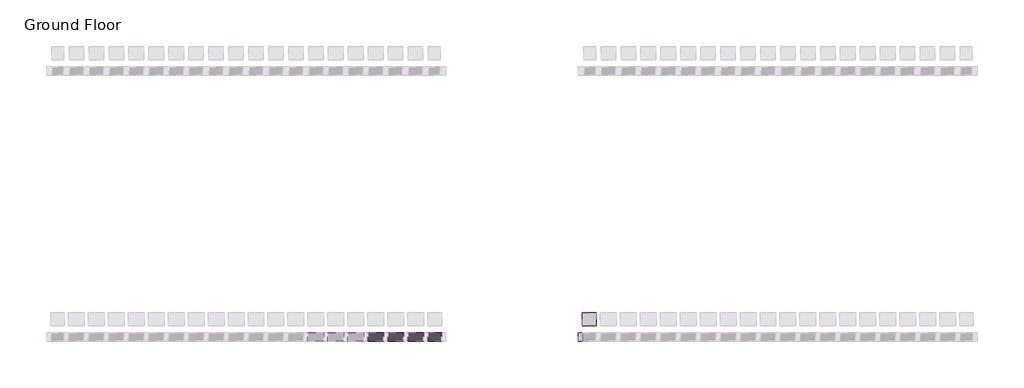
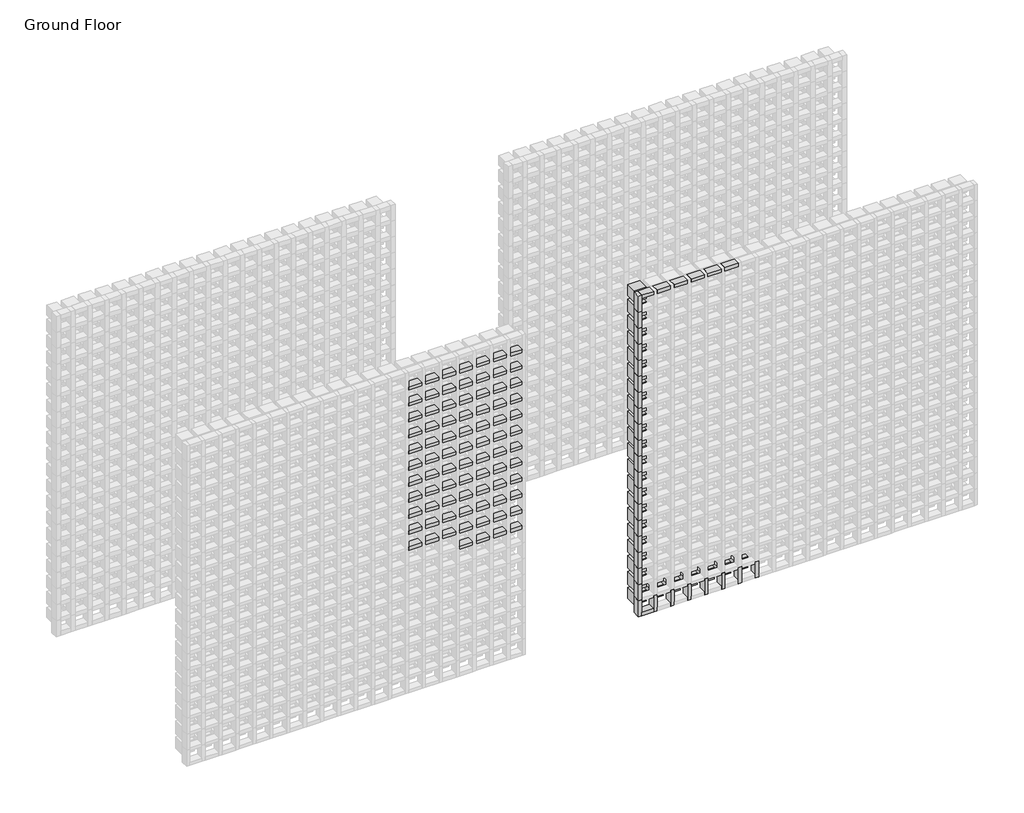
# One storey, part 73 of 350: 115 members, 26 plates.
"""IFC4 building model written with IfcOpenShell, lengths in millimetres."""

from ifc_helpers import new_model, si_unit, origin, place, context, project, spatial, transform, mapped, element, save
from components import rectangular_mullion_e9e2e2fa, rectangular_mullion_f28dea33, rectangular_mullion_5b501421, rectangular_mullion_f2fcf417, rectangular_mullion_51467dcc, rectangular_mullion_27b03f3e, rectangular_mullion_ed01f2b6, empty_system_panel_empty_2f71b3a5, empty_system_panel_empty_fe50b430, empty_system_panel_empty_7a4fbe29

model = new_model("IFC4")

# Units and contexts
model_context = context("Model", 3, world=origin())
ifc_project = project(units=[si_unit("LENGTHUNIT", "METRE", prefix="MILLI")], contexts=[model_context])

# Site, building, storey
site = spatial("IfcSite", under=ifc_project)
building = spatial("IfcBuilding", under=site)
storey = spatial("IfcBuildingStorey", under=building, Name="Ground Floor", Elevation=0.0)

# Members
placement = place(None, origin())
rectangular_mullion_shape = rectangular_mullion_e9e2e2fa(model_context)
element("IfcMember", 1, ObjectType="Rectangular Mullion : Batten_Timber_Modinex_Austratus_Grid_Fascia_30x65_Hemlock", at=placement, inside=storey, context=model_context, shape_type="MappedRepresentation", body=[
    mapped(rectangular_mullion_shape, transform((12886.4361639, 38968.2978302, 1200.0), x_axis=(0.0, 0.0, 1.0), y_axis=(0.0, -1.0, 0.0), z_axis=(1.0, 0.0, 0.0))),
])
element("IfcMember", 2, ObjectType="Rectangular Mullion : Batten_Timber_Modinex_Austratus_Grid_Fascia_30x65_Hemlock", at=placement, inside=storey, context=model_context, shape_type="MappedRepresentation", body=[
    mapped(rectangular_mullion_shape, transform((12886.4361639, 38968.2978302, 1350.0), x_axis=(0.0, 0.0, 1.0), y_axis=(0.0, -1.0, 0.0), z_axis=(1.0, 0.0, 0.0))),
])
element("IfcMember", 3, ObjectType="Rectangular Mullion : Batten_Timber_Modinex_Austratus_Grid_Fascia_30x65_Hemlock", at=placement, inside=storey, context=model_context, shape_type="MappedRepresentation", body=[
    mapped(rectangular_mullion_shape, transform((12886.4361639, 38968.2978302, 1500.0), x_axis=(0.0, 0.0, 1.0), y_axis=(0.0, -1.0, 0.0), z_axis=(1.0, 0.0, 0.0))),
])
element("IfcMember", 4, ObjectType="Rectangular Mullion : Batten_Timber_Modinex_Austratus_Grid_Fascia_30x65_Hemlock", at=placement, inside=storey, context=model_context, shape_type="MappedRepresentation", body=[
    mapped(rectangular_mullion_shape, transform((12886.4361639, 38968.2978302, 1650.0), x_axis=(0.0, 0.0, 1.0), y_axis=(0.0, -1.0, 0.0), z_axis=(1.0, 0.0, 0.0))),
])
element("IfcMember", 5, ObjectType="Rectangular Mullion : Batten_Timber_Modinex_Austratus_Grid_Fascia_30x65_Hemlock", at=placement, inside=storey, context=model_context, shape_type="MappedRepresentation", body=[
    mapped(rectangular_mullion_shape, transform((12886.4361639, 38968.2978302, 1800.0), x_axis=(0.0, 0.0, 1.0), y_axis=(0.0, -1.0, 0.0), z_axis=(1.0, 0.0, 0.0))),
])
element("IfcMember", 6, ObjectType="Rectangular Mullion : Batten_Timber_Modinex_Austratus_Grid_Fascia_30x65_Hemlock", at=placement, inside=storey, context=model_context, shape_type="MappedRepresentation", body=[
    mapped(rectangular_mullion_shape, transform((12886.4361639, 38968.2978302, 1950.0), x_axis=(0.0, 0.0, 1.0), y_axis=(0.0, -1.0, 0.0), z_axis=(1.0, 0.0, 0.0))),
])
element("IfcMember", 7, ObjectType="Rectangular Mullion : Batten_Timber_Modinex_Austratus_Grid_Fascia_30x65_Hemlock", at=placement, inside=storey, context=model_context, shape_type="MappedRepresentation", body=[
    mapped(rectangular_mullion_shape, transform((12886.4361639, 38968.2978302, 2100.0), x_axis=(0.0, 0.0, 1.0), y_axis=(0.0, -1.0, 0.0), z_axis=(1.0, 0.0, 0.0))),
])
element("IfcMember", 8, ObjectType="Rectangular Mullion : Batten_Timber_Modinex_Austratus_Grid_Fascia_30x65_Hemlock", at=placement, inside=storey, context=model_context, shape_type="MappedRepresentation", body=[
    mapped(rectangular_mullion_shape, transform((12886.4361639, 38968.2978302, 2250.0), x_axis=(0.0, 0.0, 1.0), y_axis=(0.0, -1.0, 0.0), z_axis=(1.0, 0.0, 0.0))),
])
element("IfcMember", 9, ObjectType="Rectangular Mullion : Batten_Timber_Modinex_Austratus_Grid_Fascia_30x65_Hemlock", at=placement, inside=storey, context=model_context, shape_type="MappedRepresentation", body=[
    mapped(rectangular_mullion_shape, transform((12886.4361639, 38968.2978302, 2400.0), x_axis=(0.0, 0.0, 1.0), y_axis=(0.0, -1.0, 0.0), z_axis=(1.0, 0.0, 0.0))),
])
element("IfcMember", 10, ObjectType="Rectangular Mullion : Batten_Timber_Modinex_Austratus_Grid_Fascia_30x65_Hemlock", at=placement, inside=storey, context=model_context, shape_type="MappedRepresentation", body=[
    mapped(rectangular_mullion_shape, transform((12886.4361639, 38968.2978302, 2550.0), x_axis=(0.0, 0.0, 1.0), y_axis=(0.0, -1.0, 0.0), z_axis=(1.0, 0.0, 0.0))),
])
element("IfcMember", 11, ObjectType="Rectangular Mullion : Batten_Timber_Modinex_Austratus_Grid_Fascia_30x65_Hemlock", at=placement, inside=storey, context=model_context, shape_type="MappedRepresentation", body=[
    mapped(rectangular_mullion_shape, transform((12886.4361639, 38968.2978302, 2700.0), x_axis=(0.0, 0.0, 1.0), y_axis=(0.0, -1.0, 0.0), z_axis=(1.0, 0.0, 0.0))),
])
element("IfcMember", 12, ObjectType="Rectangular Mullion : Batten_Timber_Modinex_Austratus_Grid_Fascia_30x65_Hemlock", at=placement, inside=storey, context=model_context, shape_type="MappedRepresentation", body=[
    mapped(rectangular_mullion_shape, transform((12886.4361639, 38968.2978302, 2850.0), x_axis=(0.0, 0.0, 1.0), y_axis=(0.0, -1.0, 0.0), z_axis=(1.0, 0.0, 0.0))),
])
rectangular_mullion_2_shape = rectangular_mullion_f28dea33(model_context)
element("IfcMember", 13, ObjectType="Rectangular Mullion : Batten_Timber_Modinex_Austratus_Grid_Fascia_30x65_Hemlock", at=placement, inside=storey, context=model_context, shape_type="MappedRepresentation", body=[
    mapped(rectangular_mullion_2_shape, transform((12451.4361642, 38968.2978302, 1200.0), x_axis=(0.0, 0.0, 1.0), y_axis=(0.0, -1.0, 0.0), z_axis=(1.0, 0.0, 0.0))),
])
element("IfcMember", 14, ObjectType="Rectangular Mullion : Batten_Timber_Modinex_Austratus_Grid_Fascia_30x65_Hemlock", at=placement, inside=storey, context=model_context, shape_type="MappedRepresentation", body=[
    mapped(rectangular_mullion_2_shape, transform((12601.4361642, 38968.2978302, 1200.0), x_axis=(0.0, 0.0, 1.0), y_axis=(0.0, -1.0, 0.0), z_axis=(1.0, 0.0, 0.0))),
])
element("IfcMember", 15, ObjectType="Rectangular Mullion : Batten_Timber_Modinex_Austratus_Grid_Fascia_30x65_Hemlock", at=placement, inside=storey, context=model_context, shape_type="MappedRepresentation", body=[
    mapped(rectangular_mullion_2_shape, transform((12751.4361642, 38968.2978302, 1200.0), x_axis=(0.0, 0.0, 1.0), y_axis=(0.0, -1.0, 0.0), z_axis=(1.0, 0.0, 0.0))),
])
element("IfcMember", 16, ObjectType="Rectangular Mullion : Batten_Timber_Modinex_Austratus_Grid_Fascia_30x65_Hemlock", at=placement, inside=storey, context=model_context, shape_type="MappedRepresentation", body=[
    mapped(rectangular_mullion_2_shape, transform((12001.4361642, 38968.2978302, 1350.0), x_axis=(0.0, 0.0, 1.0), y_axis=(0.0, -1.0, 0.0), z_axis=(1.0, 0.0, 0.0))),
])
element("IfcMember", 17, ObjectType="Rectangular Mullion : Batten_Timber_Modinex_Austratus_Grid_Fascia_30x65_Hemlock", at=placement, inside=storey, context=model_context, shape_type="MappedRepresentation", body=[
    mapped(rectangular_mullion_2_shape, transform((12151.4361642, 38968.2978302, 1350.0), x_axis=(0.0, 0.0, 1.0), y_axis=(0.0, -1.0, 0.0), z_axis=(1.0, 0.0, 0.0))),
])
element("IfcMember", 18, ObjectType="Rectangular Mullion : Batten_Timber_Modinex_Austratus_Grid_Fascia_30x65_Hemlock", at=placement, inside=storey, context=model_context, shape_type="MappedRepresentation", body=[
    mapped(rectangular_mullion_2_shape, transform((12301.4361642, 38968.2978302, 1350.0), x_axis=(0.0, 0.0, 1.0), y_axis=(0.0, -1.0, 0.0), z_axis=(1.0, 0.0, 0.0))),
])
element("IfcMember", 19, ObjectType="Rectangular Mullion : Batten_Timber_Modinex_Austratus_Grid_Fascia_30x65_Hemlock", at=placement, inside=storey, context=model_context, shape_type="MappedRepresentation", body=[
    mapped(rectangular_mullion_2_shape, transform((12451.4361642, 38968.2978302, 1350.0), x_axis=(0.0, 0.0, 1.0), y_axis=(0.0, -1.0, 0.0), z_axis=(1.0, 0.0, 0.0))),
])
element("IfcMember", 20, ObjectType="Rectangular Mullion : Batten_Timber_Modinex_Austratus_Grid_Fascia_30x65_Hemlock", at=placement, inside=storey, context=model_context, shape_type="MappedRepresentation", body=[
    mapped(rectangular_mullion_2_shape, transform((12601.4361642, 38968.2978302, 1350.0), x_axis=(0.0, 0.0, 1.0), y_axis=(0.0, -1.0, 0.0), z_axis=(1.0, 0.0, 0.0))),
])
element("IfcMember", 21, ObjectType="Rectangular Mullion : Batten_Timber_Modinex_Austratus_Grid_Fascia_30x65_Hemlock", at=placement, inside=storey, context=model_context, shape_type="MappedRepresentation", body=[
    mapped(rectangular_mullion_2_shape, transform((12751.4361642, 38968.2978302, 1350.0), x_axis=(0.0, 0.0, 1.0), y_axis=(0.0, -1.0, 0.0), z_axis=(1.0, 0.0, 0.0))),
])
element("IfcMember", 22, ObjectType="Rectangular Mullion : Batten_Timber_Modinex_Austratus_Grid_Fascia_30x65_Hemlock", at=placement, inside=storey, context=model_context, shape_type="MappedRepresentation", body=[
    mapped(rectangular_mullion_2_shape, transform((12001.4361642, 38968.2978302, 1500.0), x_axis=(0.0, 0.0, 1.0), y_axis=(0.0, -1.0, 0.0), z_axis=(1.0, 0.0, 0.0))),
])
element("IfcMember", 23, ObjectType="Rectangular Mullion : Batten_Timber_Modinex_Austratus_Grid_Fascia_30x65_Hemlock", at=placement, inside=storey, context=model_context, shape_type="MappedRepresentation", body=[
    mapped(rectangular_mullion_2_shape, transform((12151.4361642, 38968.2978302, 1500.0), x_axis=(0.0, 0.0, 1.0), y_axis=(0.0, -1.0, 0.0), z_axis=(1.0, 0.0, 0.0))),
])
element("IfcMember", 24, ObjectType="Rectangular Mullion : Batten_Timber_Modinex_Austratus_Grid_Fascia_30x65_Hemlock", at=placement, inside=storey, context=model_context, shape_type="MappedRepresentation", body=[
    mapped(rectangular_mullion_2_shape, transform((12301.4361642, 38968.2978302, 1500.0), x_axis=(0.0, 0.0, 1.0), y_axis=(0.0, -1.0, 0.0), z_axis=(1.0, 0.0, 0.0))),
])
element("IfcMember", 25, ObjectType="Rectangular Mullion : Batten_Timber_Modinex_Austratus_Grid_Fascia_30x65_Hemlock", at=placement, inside=storey, context=model_context, shape_type="MappedRepresentation", body=[
    mapped(rectangular_mullion_2_shape, transform((12451.4361642, 38968.2978302, 1500.0), x_axis=(0.0, 0.0, 1.0), y_axis=(0.0, -1.0, 0.0), z_axis=(1.0, 0.0, 0.0))),
])
element("IfcMember", 26, ObjectType="Rectangular Mullion : Batten_Timber_Modinex_Austratus_Grid_Fascia_30x65_Hemlock", at=placement, inside=storey, context=model_context, shape_type="MappedRepresentation", body=[
    mapped(rectangular_mullion_2_shape, transform((12601.4361642, 38968.2978302, 1500.0), x_axis=(0.0, 0.0, 1.0), y_axis=(0.0, -1.0, 0.0), z_axis=(1.0, 0.0, 0.0))),
])
element("IfcMember", 27, ObjectType="Rectangular Mullion : Batten_Timber_Modinex_Austratus_Grid_Fascia_30x65_Hemlock", at=placement, inside=storey, context=model_context, shape_type="MappedRepresentation", body=[
    mapped(rectangular_mullion_2_shape, transform((12751.4361642, 38968.2978302, 1500.0), x_axis=(0.0, 0.0, 1.0), y_axis=(0.0, -1.0, 0.0), z_axis=(1.0, 0.0, 0.0))),
])
element("IfcMember", 28, ObjectType="Rectangular Mullion : Batten_Timber_Modinex_Austratus_Grid_Fascia_30x65_Hemlock", at=placement, inside=storey, context=model_context, shape_type="MappedRepresentation", body=[
    mapped(rectangular_mullion_2_shape, transform((12001.4361642, 38968.2978302, 1650.0), x_axis=(0.0, 0.0, 1.0), y_axis=(0.0, -1.0, 0.0), z_axis=(1.0, 0.0, 0.0))),
])
element("IfcMember", 29, ObjectType="Rectangular Mullion : Batten_Timber_Modinex_Austratus_Grid_Fascia_30x65_Hemlock", at=placement, inside=storey, context=model_context, shape_type="MappedRepresentation", body=[
    mapped(rectangular_mullion_2_shape, transform((12151.4361642, 38968.2978302, 1650.0), x_axis=(0.0, 0.0, 1.0), y_axis=(0.0, -1.0, 0.0), z_axis=(1.0, 0.0, 0.0))),
])
element("IfcMember", 30, ObjectType="Rectangular Mullion : Batten_Timber_Modinex_Austratus_Grid_Fascia_30x65_Hemlock", at=placement, inside=storey, context=model_context, shape_type="MappedRepresentation", body=[
    mapped(rectangular_mullion_2_shape, transform((12301.4361642, 38968.2978302, 1650.0), x_axis=(0.0, 0.0, 1.0), y_axis=(0.0, -1.0, 0.0), z_axis=(1.0, 0.0, 0.0))),
])
element("IfcMember", 31, ObjectType="Rectangular Mullion : Batten_Timber_Modinex_Austratus_Grid_Fascia_30x65_Hemlock", at=placement, inside=storey, context=model_context, shape_type="MappedRepresentation", body=[
    mapped(rectangular_mullion_2_shape, transform((12451.4361642, 38968.2978302, 1650.0), x_axis=(0.0, 0.0, 1.0), y_axis=(0.0, -1.0, 0.0), z_axis=(1.0, 0.0, 0.0))),
])
element("IfcMember", 32, ObjectType="Rectangular Mullion : Batten_Timber_Modinex_Austratus_Grid_Fascia_30x65_Hemlock", at=placement, inside=storey, context=model_context, shape_type="MappedRepresentation", body=[
    mapped(rectangular_mullion_2_shape, transform((12601.4361642, 38968.2978302, 1650.0), x_axis=(0.0, 0.0, 1.0), y_axis=(0.0, -1.0, 0.0), z_axis=(1.0, 0.0, 0.0))),
])
element("IfcMember", 33, ObjectType="Rectangular Mullion : Batten_Timber_Modinex_Austratus_Grid_Fascia_30x65_Hemlock", at=placement, inside=storey, context=model_context, shape_type="MappedRepresentation", body=[
    mapped(rectangular_mullion_2_shape, transform((12751.4361642, 38968.2978302, 1650.0), x_axis=(0.0, 0.0, 1.0), y_axis=(0.0, -1.0, 0.0), z_axis=(1.0, 0.0, 0.0))),
])
element("IfcMember", 34, ObjectType="Rectangular Mullion : Batten_Timber_Modinex_Austratus_Grid_Fascia_30x65_Hemlock", at=placement, inside=storey, context=model_context, shape_type="MappedRepresentation", body=[
    mapped(rectangular_mullion_2_shape, transform((12001.4361642, 38968.2978302, 1800.0), x_axis=(0.0, 0.0, 1.0), y_axis=(0.0, -1.0, 0.0), z_axis=(1.0, 0.0, 0.0))),
])
element("IfcMember", 35, ObjectType="Rectangular Mullion : Batten_Timber_Modinex_Austratus_Grid_Fascia_30x65_Hemlock", at=placement, inside=storey, context=model_context, shape_type="MappedRepresentation", body=[
    mapped(rectangular_mullion_2_shape, transform((12151.4361642, 38968.2978302, 1800.0), x_axis=(0.0, 0.0, 1.0), y_axis=(0.0, -1.0, 0.0), z_axis=(1.0, 0.0, 0.0))),
])
element("IfcMember", 36, ObjectType="Rectangular Mullion : Batten_Timber_Modinex_Austratus_Grid_Fascia_30x65_Hemlock", at=placement, inside=storey, context=model_context, shape_type="MappedRepresentation", body=[
    mapped(rectangular_mullion_2_shape, transform((12301.4361642, 38968.2978302, 1800.0), x_axis=(0.0, 0.0, 1.0), y_axis=(0.0, -1.0, 0.0), z_axis=(1.0, 0.0, 0.0))),
])
element("IfcMember", 37, ObjectType="Rectangular Mullion : Batten_Timber_Modinex_Austratus_Grid_Fascia_30x65_Hemlock", at=placement, inside=storey, context=model_context, shape_type="MappedRepresentation", body=[
    mapped(rectangular_mullion_2_shape, transform((12451.4361642, 38968.2978302, 1800.0), x_axis=(0.0, 0.0, 1.0), y_axis=(0.0, -1.0, 0.0), z_axis=(1.0, 0.0, 0.0))),
])
element("IfcMember", 38, ObjectType="Rectangular Mullion : Batten_Timber_Modinex_Austratus_Grid_Fascia_30x65_Hemlock", at=placement, inside=storey, context=model_context, shape_type="MappedRepresentation", body=[
    mapped(rectangular_mullion_2_shape, transform((12601.4361642, 38968.2978302, 1800.0), x_axis=(0.0, 0.0, 1.0), y_axis=(0.0, -1.0, 0.0), z_axis=(1.0, 0.0, 0.0))),
])
element("IfcMember", 39, ObjectType="Rectangular Mullion : Batten_Timber_Modinex_Austratus_Grid_Fascia_30x65_Hemlock", at=placement, inside=storey, context=model_context, shape_type="MappedRepresentation", body=[
    mapped(rectangular_mullion_2_shape, transform((12751.4361642, 38968.2978302, 1800.0), x_axis=(0.0, 0.0, 1.0), y_axis=(0.0, -1.0, 0.0), z_axis=(1.0, 0.0, 0.0))),
])
element("IfcMember", 40, ObjectType="Rectangular Mullion : Batten_Timber_Modinex_Austratus_Grid_Fascia_30x65_Hemlock", at=placement, inside=storey, context=model_context, shape_type="MappedRepresentation", body=[
    mapped(rectangular_mullion_2_shape, transform((12001.4361642, 38968.2978302, 1950.0), x_axis=(0.0, 0.0, 1.0), y_axis=(0.0, -1.0, 0.0), z_axis=(1.0, 0.0, 0.0))),
])
element("IfcMember", 41, ObjectType="Rectangular Mullion : Batten_Timber_Modinex_Austratus_Grid_Fascia_30x65_Hemlock", at=placement, inside=storey, context=model_context, shape_type="MappedRepresentation", body=[
    mapped(rectangular_mullion_2_shape, transform((12151.4361642, 38968.2978302, 1950.0), x_axis=(0.0, 0.0, 1.0), y_axis=(0.0, -1.0, 0.0), z_axis=(1.0, 0.0, 0.0))),
])
element("IfcMember", 42, ObjectType="Rectangular Mullion : Batten_Timber_Modinex_Austratus_Grid_Fascia_30x65_Hemlock", at=placement, inside=storey, context=model_context, shape_type="MappedRepresentation", body=[
    mapped(rectangular_mullion_2_shape, transform((12301.4361642, 38968.2978302, 1950.0), x_axis=(0.0, 0.0, 1.0), y_axis=(0.0, -1.0, 0.0), z_axis=(1.0, 0.0, 0.0))),
])
element("IfcMember", 43, ObjectType="Rectangular Mullion : Batten_Timber_Modinex_Austratus_Grid_Fascia_30x65_Hemlock", at=placement, inside=storey, context=model_context, shape_type="MappedRepresentation", body=[
    mapped(rectangular_mullion_2_shape, transform((12451.4361642, 38968.2978302, 1950.0), x_axis=(0.0, 0.0, 1.0), y_axis=(0.0, -1.0, 0.0), z_axis=(1.0, 0.0, 0.0))),
])
element("IfcMember", 44, ObjectType="Rectangular Mullion : Batten_Timber_Modinex_Austratus_Grid_Fascia_30x65_Hemlock", at=placement, inside=storey, context=model_context, shape_type="MappedRepresentation", body=[
    mapped(rectangular_mullion_2_shape, transform((12601.4361642, 38968.2978302, 1950.0), x_axis=(0.0, 0.0, 1.0), y_axis=(0.0, -1.0, 0.0), z_axis=(1.0, 0.0, 0.0))),
])
element("IfcMember", 45, ObjectType="Rectangular Mullion : Batten_Timber_Modinex_Austratus_Grid_Fascia_30x65_Hemlock", at=placement, inside=storey, context=model_context, shape_type="MappedRepresentation", body=[
    mapped(rectangular_mullion_2_shape, transform((12751.4361642, 38968.2978302, 1950.0), x_axis=(0.0, 0.0, 1.0), y_axis=(0.0, -1.0, 0.0), z_axis=(1.0, 0.0, 0.0))),
])
element("IfcMember", 46, ObjectType="Rectangular Mullion : Batten_Timber_Modinex_Austratus_Grid_Fascia_30x65_Hemlock", at=placement, inside=storey, context=model_context, shape_type="MappedRepresentation", body=[
    mapped(rectangular_mullion_2_shape, transform((12001.4361642, 38968.2978302, 2100.0), x_axis=(0.0, 0.0, 1.0), y_axis=(0.0, -1.0, 0.0), z_axis=(1.0, 0.0, 0.0))),
])
element("IfcMember", 47, ObjectType="Rectangular Mullion : Batten_Timber_Modinex_Austratus_Grid_Fascia_30x65_Hemlock", at=placement, inside=storey, context=model_context, shape_type="MappedRepresentation", body=[
    mapped(rectangular_mullion_2_shape, transform((12151.4361642, 38968.2978302, 2100.0), x_axis=(0.0, 0.0, 1.0), y_axis=(0.0, -1.0, 0.0), z_axis=(1.0, 0.0, 0.0))),
])
element("IfcMember", 48, ObjectType="Rectangular Mullion : Batten_Timber_Modinex_Austratus_Grid_Fascia_30x65_Hemlock", at=placement, inside=storey, context=model_context, shape_type="MappedRepresentation", body=[
    mapped(rectangular_mullion_2_shape, transform((12301.4361642, 38968.2978302, 2100.0), x_axis=(0.0, 0.0, 1.0), y_axis=(0.0, -1.0, 0.0), z_axis=(1.0, 0.0, 0.0))),
])
element("IfcMember", 49, ObjectType="Rectangular Mullion : Batten_Timber_Modinex_Austratus_Grid_Fascia_30x65_Hemlock", at=placement, inside=storey, context=model_context, shape_type="MappedRepresentation", body=[
    mapped(rectangular_mullion_2_shape, transform((12451.4361642, 38968.2978302, 2100.0), x_axis=(0.0, 0.0, 1.0), y_axis=(0.0, -1.0, 0.0), z_axis=(1.0, 0.0, 0.0))),
])
element("IfcMember", 50, ObjectType="Rectangular Mullion : Batten_Timber_Modinex_Austratus_Grid_Fascia_30x65_Hemlock", at=placement, inside=storey, context=model_context, shape_type="MappedRepresentation", body=[
    mapped(rectangular_mullion_2_shape, transform((12601.4361642, 38968.2978302, 2100.0), x_axis=(0.0, 0.0, 1.0), y_axis=(0.0, -1.0, 0.0), z_axis=(1.0, 0.0, 0.0))),
])
element("IfcMember", 51, ObjectType="Rectangular Mullion : Batten_Timber_Modinex_Austratus_Grid_Fascia_30x65_Hemlock", at=placement, inside=storey, context=model_context, shape_type="MappedRepresentation", body=[
    mapped(rectangular_mullion_2_shape, transform((12751.4361642, 38968.2978302, 2100.0), x_axis=(0.0, 0.0, 1.0), y_axis=(0.0, -1.0, 0.0), z_axis=(1.0, 0.0, 0.0))),
])
element("IfcMember", 52, ObjectType="Rectangular Mullion : Batten_Timber_Modinex_Austratus_Grid_Fascia_30x65_Hemlock", at=placement, inside=storey, context=model_context, shape_type="MappedRepresentation", body=[
    mapped(rectangular_mullion_2_shape, transform((12001.4361642, 38968.2978302, 2250.0), x_axis=(0.0, 0.0, 1.0), y_axis=(0.0, -1.0, 0.0), z_axis=(1.0, 0.0, 0.0))),
])
element("IfcMember", 53, ObjectType="Rectangular Mullion : Batten_Timber_Modinex_Austratus_Grid_Fascia_30x65_Hemlock", at=placement, inside=storey, context=model_context, shape_type="MappedRepresentation", body=[
    mapped(rectangular_mullion_2_shape, transform((12151.4361642, 38968.2978302, 2250.0), x_axis=(0.0, 0.0, 1.0), y_axis=(0.0, -1.0, 0.0), z_axis=(1.0, 0.0, 0.0))),
])
element("IfcMember", 54, ObjectType="Rectangular Mullion : Batten_Timber_Modinex_Austratus_Grid_Fascia_30x65_Hemlock", at=placement, inside=storey, context=model_context, shape_type="MappedRepresentation", body=[
    mapped(rectangular_mullion_2_shape, transform((12301.4361642, 38968.2978302, 2250.0), x_axis=(0.0, 0.0, 1.0), y_axis=(0.0, -1.0, 0.0), z_axis=(1.0, 0.0, 0.0))),
])
element("IfcMember", 55, ObjectType="Rectangular Mullion : Batten_Timber_Modinex_Austratus_Grid_Fascia_30x65_Hemlock", at=placement, inside=storey, context=model_context, shape_type="MappedRepresentation", body=[
    mapped(rectangular_mullion_2_shape, transform((12451.4361642, 38968.2978302, 2250.0), x_axis=(0.0, 0.0, 1.0), y_axis=(0.0, -1.0, 0.0), z_axis=(1.0, 0.0, 0.0))),
])
element("IfcMember", 56, ObjectType="Rectangular Mullion : Batten_Timber_Modinex_Austratus_Grid_Fascia_30x65_Hemlock", at=placement, inside=storey, context=model_context, shape_type="MappedRepresentation", body=[
    mapped(rectangular_mullion_2_shape, transform((12601.4361642, 38968.2978302, 2250.0), x_axis=(0.0, 0.0, 1.0), y_axis=(0.0, -1.0, 0.0), z_axis=(1.0, 0.0, 0.0))),
])
element("IfcMember", 57, ObjectType="Rectangular Mullion : Batten_Timber_Modinex_Austratus_Grid_Fascia_30x65_Hemlock", at=placement, inside=storey, context=model_context, shape_type="MappedRepresentation", body=[
    mapped(rectangular_mullion_2_shape, transform((12751.4361642, 38968.2978302, 2250.0), x_axis=(0.0, 0.0, 1.0), y_axis=(0.0, -1.0, 0.0), z_axis=(1.0, 0.0, 0.0))),
])
element("IfcMember", 58, ObjectType="Rectangular Mullion : Batten_Timber_Modinex_Austratus_Grid_Fascia_30x65_Hemlock", at=placement, inside=storey, context=model_context, shape_type="MappedRepresentation", body=[
    mapped(rectangular_mullion_2_shape, transform((12001.4361642, 38968.2978302, 2400.0), x_axis=(0.0, 0.0, 1.0), y_axis=(0.0, -1.0, 0.0), z_axis=(1.0, 0.0, 0.0))),
])
element("IfcMember", 59, ObjectType="Rectangular Mullion : Batten_Timber_Modinex_Austratus_Grid_Fascia_30x65_Hemlock", at=placement, inside=storey, context=model_context, shape_type="MappedRepresentation", body=[
    mapped(rectangular_mullion_2_shape, transform((12151.4361642, 38968.2978302, 2400.0), x_axis=(0.0, 0.0, 1.0), y_axis=(0.0, -1.0, 0.0), z_axis=(1.0, 0.0, 0.0))),
])
element("IfcMember", 60, ObjectType="Rectangular Mullion : Batten_Timber_Modinex_Austratus_Grid_Fascia_30x65_Hemlock", at=placement, inside=storey, context=model_context, shape_type="MappedRepresentation", body=[
    mapped(rectangular_mullion_2_shape, transform((12301.4361642, 38968.2978302, 2400.0), x_axis=(0.0, 0.0, 1.0), y_axis=(0.0, -1.0, 0.0), z_axis=(1.0, 0.0, 0.0))),
])
element("IfcMember", 61, ObjectType="Rectangular Mullion : Batten_Timber_Modinex_Austratus_Grid_Fascia_30x65_Hemlock", at=placement, inside=storey, context=model_context, shape_type="MappedRepresentation", body=[
    mapped(rectangular_mullion_2_shape, transform((12451.4361642, 38968.2978302, 2400.0), x_axis=(0.0, 0.0, 1.0), y_axis=(0.0, -1.0, 0.0), z_axis=(1.0, 0.0, 0.0))),
])
element("IfcMember", 62, ObjectType="Rectangular Mullion : Batten_Timber_Modinex_Austratus_Grid_Fascia_30x65_Hemlock", at=placement, inside=storey, context=model_context, shape_type="MappedRepresentation", body=[
    mapped(rectangular_mullion_2_shape, transform((12601.4361642, 38968.2978302, 2400.0), x_axis=(0.0, 0.0, 1.0), y_axis=(0.0, -1.0, 0.0), z_axis=(1.0, 0.0, 0.0))),
])
element("IfcMember", 63, ObjectType="Rectangular Mullion : Batten_Timber_Modinex_Austratus_Grid_Fascia_30x65_Hemlock", at=placement, inside=storey, context=model_context, shape_type="MappedRepresentation", body=[
    mapped(rectangular_mullion_2_shape, transform((12751.4361642, 38968.2978302, 2400.0), x_axis=(0.0, 0.0, 1.0), y_axis=(0.0, -1.0, 0.0), z_axis=(1.0, 0.0, 0.0))),
])
element("IfcMember", 64, ObjectType="Rectangular Mullion : Batten_Timber_Modinex_Austratus_Grid_Fascia_30x65_Hemlock", at=placement, inside=storey, context=model_context, shape_type="MappedRepresentation", body=[
    mapped(rectangular_mullion_2_shape, transform((12001.4361642, 38968.2978302, 2550.0), x_axis=(0.0, 0.0, 1.0), y_axis=(0.0, -1.0, 0.0), z_axis=(1.0, 0.0, 0.0))),
])
element("IfcMember", 65, ObjectType="Rectangular Mullion : Batten_Timber_Modinex_Austratus_Grid_Fascia_30x65_Hemlock", at=placement, inside=storey, context=model_context, shape_type="MappedRepresentation", body=[
    mapped(rectangular_mullion_2_shape, transform((12151.4361642, 38968.2978302, 2550.0), x_axis=(0.0, 0.0, 1.0), y_axis=(0.0, -1.0, 0.0), z_axis=(1.0, 0.0, 0.0))),
])
element("IfcMember", 66, ObjectType="Rectangular Mullion : Batten_Timber_Modinex_Austratus_Grid_Fascia_30x65_Hemlock", at=placement, inside=storey, context=model_context, shape_type="MappedRepresentation", body=[
    mapped(rectangular_mullion_2_shape, transform((12301.4361642, 38968.2978302, 2550.0), x_axis=(0.0, 0.0, 1.0), y_axis=(0.0, -1.0, 0.0), z_axis=(1.0, 0.0, 0.0))),
])
element("IfcMember", 67, ObjectType="Rectangular Mullion : Batten_Timber_Modinex_Austratus_Grid_Fascia_30x65_Hemlock", at=placement, inside=storey, context=model_context, shape_type="MappedRepresentation", body=[
    mapped(rectangular_mullion_2_shape, transform((12451.4361642, 38968.2978302, 2550.0), x_axis=(0.0, 0.0, 1.0), y_axis=(0.0, -1.0, 0.0), z_axis=(1.0, 0.0, 0.0))),
])
element("IfcMember", 68, ObjectType="Rectangular Mullion : Batten_Timber_Modinex_Austratus_Grid_Fascia_30x65_Hemlock", at=placement, inside=storey, context=model_context, shape_type="MappedRepresentation", body=[
    mapped(rectangular_mullion_2_shape, transform((12601.4361642, 38968.2978302, 2550.0), x_axis=(0.0, 0.0, 1.0), y_axis=(0.0, -1.0, 0.0), z_axis=(1.0, 0.0, 0.0))),
])
element("IfcMember", 69, ObjectType="Rectangular Mullion : Batten_Timber_Modinex_Austratus_Grid_Fascia_30x65_Hemlock", at=placement, inside=storey, context=model_context, shape_type="MappedRepresentation", body=[
    mapped(rectangular_mullion_2_shape, transform((12751.4361642, 38968.2978302, 2550.0), x_axis=(0.0, 0.0, 1.0), y_axis=(0.0, -1.0, 0.0), z_axis=(1.0, 0.0, 0.0))),
])
element("IfcMember", 70, ObjectType="Rectangular Mullion : Batten_Timber_Modinex_Austratus_Grid_Fascia_30x65_Hemlock", at=placement, inside=storey, context=model_context, shape_type="MappedRepresentation", body=[
    mapped(rectangular_mullion_2_shape, transform((12001.4361642, 38968.2978302, 2700.0), x_axis=(0.0, 0.0, 1.0), y_axis=(0.0, -1.0, 0.0), z_axis=(1.0, 0.0, 0.0))),
])
element("IfcMember", 71, ObjectType="Rectangular Mullion : Batten_Timber_Modinex_Austratus_Grid_Fascia_30x65_Hemlock", at=placement, inside=storey, context=model_context, shape_type="MappedRepresentation", body=[
    mapped(rectangular_mullion_2_shape, transform((12151.4361642, 38968.2978302, 2700.0), x_axis=(0.0, 0.0, 1.0), y_axis=(0.0, -1.0, 0.0), z_axis=(1.0, 0.0, 0.0))),
])
element("IfcMember", 72, ObjectType="Rectangular Mullion : Batten_Timber_Modinex_Austratus_Grid_Fascia_30x65_Hemlock", at=placement, inside=storey, context=model_context, shape_type="MappedRepresentation", body=[
    mapped(rectangular_mullion_2_shape, transform((12301.4361642, 38968.2978302, 2700.0), x_axis=(0.0, 0.0, 1.0), y_axis=(0.0, -1.0, 0.0), z_axis=(1.0, 0.0, 0.0))),
])
element("IfcMember", 73, ObjectType="Rectangular Mullion : Batten_Timber_Modinex_Austratus_Grid_Fascia_30x65_Hemlock", at=placement, inside=storey, context=model_context, shape_type="MappedRepresentation", body=[
    mapped(rectangular_mullion_2_shape, transform((12451.4361642, 38968.2978302, 2700.0), x_axis=(0.0, 0.0, 1.0), y_axis=(0.0, -1.0, 0.0), z_axis=(1.0, 0.0, 0.0))),
])
element("IfcMember", 74, ObjectType="Rectangular Mullion : Batten_Timber_Modinex_Austratus_Grid_Fascia_30x65_Hemlock", at=placement, inside=storey, context=model_context, shape_type="MappedRepresentation", body=[
    mapped(rectangular_mullion_2_shape, transform((12601.4361642, 38968.2978302, 2700.0), x_axis=(0.0, 0.0, 1.0), y_axis=(0.0, -1.0, 0.0), z_axis=(1.0, 0.0, 0.0))),
])
element("IfcMember", 75, ObjectType="Rectangular Mullion : Batten_Timber_Modinex_Austratus_Grid_Fascia_30x65_Hemlock", at=placement, inside=storey, context=model_context, shape_type="MappedRepresentation", body=[
    mapped(rectangular_mullion_2_shape, transform((12751.4361642, 38968.2978302, 2700.0), x_axis=(0.0, 0.0, 1.0), y_axis=(0.0, -1.0, 0.0), z_axis=(1.0, 0.0, 0.0))),
])
element("IfcMember", 76, ObjectType="Rectangular Mullion : Batten_Timber_Modinex_Austratus_Grid_Fascia_30x65_Hemlock", at=placement, inside=storey, context=model_context, shape_type="MappedRepresentation", body=[
    mapped(rectangular_mullion_2_shape, transform((12001.4361642, 38968.2978302, 2850.0), x_axis=(0.0, 0.0, 1.0), y_axis=(0.0, -1.0, 0.0), z_axis=(1.0, 0.0, 0.0))),
])
element("IfcMember", 77, ObjectType="Rectangular Mullion : Batten_Timber_Modinex_Austratus_Grid_Fascia_30x65_Hemlock", at=placement, inside=storey, context=model_context, shape_type="MappedRepresentation", body=[
    mapped(rectangular_mullion_2_shape, transform((12151.4361642, 38968.2978302, 2850.0), x_axis=(0.0, 0.0, 1.0), y_axis=(0.0, -1.0, 0.0), z_axis=(1.0, 0.0, 0.0))),
])
element("IfcMember", 78, ObjectType="Rectangular Mullion : Batten_Timber_Modinex_Austratus_Grid_Fascia_30x65_Hemlock", at=placement, inside=storey, context=model_context, shape_type="MappedRepresentation", body=[
    mapped(rectangular_mullion_2_shape, transform((12301.4361642, 38968.2978302, 2850.0), x_axis=(0.0, 0.0, 1.0), y_axis=(0.0, -1.0, 0.0), z_axis=(1.0, 0.0, 0.0))),
])
element("IfcMember", 79, ObjectType="Rectangular Mullion : Batten_Timber_Modinex_Austratus_Grid_Fascia_30x65_Hemlock", at=placement, inside=storey, context=model_context, shape_type="MappedRepresentation", body=[
    mapped(rectangular_mullion_2_shape, transform((12451.4361642, 38968.2978302, 2850.0), x_axis=(0.0, 0.0, 1.0), y_axis=(0.0, -1.0, 0.0), z_axis=(1.0, 0.0, 0.0))),
])
element("IfcMember", 80, ObjectType="Rectangular Mullion : Batten_Timber_Modinex_Austratus_Grid_Fascia_30x65_Hemlock", at=placement, inside=storey, context=model_context, shape_type="MappedRepresentation", body=[
    mapped(rectangular_mullion_2_shape, transform((12601.4361642, 38968.2978302, 2850.0), x_axis=(0.0, 0.0, 1.0), y_axis=(0.0, -1.0, 0.0), z_axis=(1.0, 0.0, 0.0))),
])
element("IfcMember", 81, ObjectType="Rectangular Mullion : Batten_Timber_Modinex_Austratus_Grid_Fascia_30x65_Hemlock", at=placement, inside=storey, context=model_context, shape_type="MappedRepresentation", body=[
    mapped(rectangular_mullion_2_shape, transform((12751.4361642, 38968.2978302, 2850.0), x_axis=(0.0, 0.0, 1.0), y_axis=(0.0, -1.0, 0.0), z_axis=(1.0, 0.0, 0.0))),
])
rectangular_mullion_3_shape = rectangular_mullion_5b501421(model_context)
element("IfcMember", 82, ObjectType="Rectangular Mullion : Batten_Timber_Modinex_Austratus_Grid_Fascia_30x65_Ironbark", at=placement, inside=storey, context=model_context, shape_type="MappedRepresentation", body=[
    mapped(rectangular_mullion_3_shape, transform((14066.4361642, 38968.2978302, 0.0), x_axis=(1.0, 0.0, 0.0), y_axis=(0.0, -1.0, 0.0), z_axis=(0.0, 0.0, -1.0))),
])
element("IfcMember", 83, ObjectType="Rectangular Mullion : Batten_Timber_Modinex_Austratus_Grid_Fascia_30x65_Ironbark", at=placement, inside=storey, context=model_context, shape_type="MappedRepresentation", body=[
    mapped(rectangular_mullion_3_shape, transform((14216.4361642, 38968.2978302, 0.0), x_axis=(1.0, 0.0, 0.0), y_axis=(0.0, -1.0, 0.0), z_axis=(0.0, 0.0, -1.0))),
])
element("IfcMember", 84, ObjectType="Rectangular Mullion : Batten_Timber_Modinex_Austratus_Grid_Fascia_30x65_Ironbark", at=placement, inside=storey, context=model_context, shape_type="MappedRepresentation", body=[
    mapped(rectangular_mullion_3_shape, transform((14366.4361642, 38968.2978302, 0.0), x_axis=(1.0, 0.0, 0.0), y_axis=(0.0, -1.0, 0.0), z_axis=(0.0, 0.0, -1.0))),
])
element("IfcMember", 85, ObjectType="Rectangular Mullion : Batten_Timber_Modinex_Austratus_Grid_Fascia_30x65_Ironbark", at=placement, inside=storey, context=model_context, shape_type="MappedRepresentation", body=[
    mapped(rectangular_mullion_3_shape, transform((14516.4361642, 38968.2978302, 0.0), x_axis=(1.0, 0.0, 0.0), y_axis=(0.0, -1.0, 0.0), z_axis=(0.0, 0.0, -1.0))),
])
element("IfcMember", 86, ObjectType="Rectangular Mullion : Batten_Timber_Modinex_Austratus_Grid_Fascia_30x65_Ironbark", at=placement, inside=storey, context=model_context, shape_type="MappedRepresentation", body=[
    mapped(rectangular_mullion_3_shape, transform((14666.4361642, 38968.2978302, 0.0), x_axis=(1.0, 0.0, 0.0), y_axis=(0.0, -1.0, 0.0), z_axis=(0.0, 0.0, -1.0))),
])
element("IfcMember", 87, ObjectType="Rectangular Mullion : Batten_Timber_Modinex_Austratus_Grid_Fascia_30x65_Ironbark", at=placement, inside=storey, context=model_context, shape_type="MappedRepresentation", body=[
    mapped(rectangular_mullion_3_shape, transform((14816.4361642, 38968.2978302, 0.0), x_axis=(1.0, 0.0, 0.0), y_axis=(0.0, -1.0, 0.0), z_axis=(0.0, 0.0, -1.0))),
])
element("IfcMember", 88, ObjectType="Rectangular Mullion : Batten_Timber_Modinex_Austratus_Grid_Fascia_30x65_Ironbark", at=placement, inside=storey, context=model_context, shape_type="MappedRepresentation", body=[
    mapped(rectangular_mullion_3_shape, transform((14966.4361642, 38968.2978302, 0.0), x_axis=(1.0, 0.0, 0.0), y_axis=(0.0, -1.0, 0.0), z_axis=(0.0, 0.0, -1.0))),
])
rectangular_mullion_4_shape = rectangular_mullion_f2fcf417(model_context)
element("IfcMember", 89, ObjectType="Rectangular Mullion : Batten_Timber_Modinex_Austratus_Grid_Fascia_30x65_Ironbark", at=placement, inside=storey, context=model_context, shape_type="MappedRepresentation", body=[
    mapped(rectangular_mullion_4_shape, transform((14051.4361642, 38968.2978302, 3000.0), x_axis=(0.0, 0.0, 1.0), y_axis=(0.0, -1.0, 0.0), z_axis=(1.0, 0.0, 0.0))),
])
rectangular_mullion_5_shape = rectangular_mullion_51467dcc(model_context)
element("IfcMember", 90, ObjectType="Rectangular Mullion : Batten_Timber_Modinex_Austratus_Grid_Fascia_30x65_Ironbark", at=placement, inside=storey, context=model_context, shape_type="MappedRepresentation", body=[
    mapped(rectangular_mullion_5_shape, transform((14201.4361642, 38968.2978302, 3000.0), x_axis=(0.0, 0.0, 1.0), y_axis=(0.0, -1.0, 0.0), z_axis=(1.0, 0.0, 0.0))),
])
element("IfcMember", 91, ObjectType="Rectangular Mullion : Batten_Timber_Modinex_Austratus_Grid_Fascia_30x65_Ironbark", at=placement, inside=storey, context=model_context, shape_type="MappedRepresentation", body=[
    mapped(rectangular_mullion_5_shape, transform((14351.4361642, 38968.2978302, 3000.0), x_axis=(0.0, 0.0, 1.0), y_axis=(0.0, -1.0, 0.0), z_axis=(1.0, 0.0, 0.0))),
])
element("IfcMember", 92, ObjectType="Rectangular Mullion : Batten_Timber_Modinex_Austratus_Grid_Fascia_30x65_Ironbark", at=placement, inside=storey, context=model_context, shape_type="MappedRepresentation", body=[
    mapped(rectangular_mullion_5_shape, transform((14501.4361642, 38968.2978302, 3000.0), x_axis=(0.0, 0.0, 1.0), y_axis=(0.0, -1.0, 0.0), z_axis=(1.0, 0.0, 0.0))),
])
element("IfcMember", 93, ObjectType="Rectangular Mullion : Batten_Timber_Modinex_Austratus_Grid_Fascia_30x65_Ironbark", at=placement, inside=storey, context=model_context, shape_type="MappedRepresentation", body=[
    mapped(rectangular_mullion_5_shape, transform((14651.4361642, 38968.2978302, 3000.0), x_axis=(0.0, 0.0, 1.0), y_axis=(0.0, -1.0, 0.0), z_axis=(1.0, 0.0, 0.0))),
])
element("IfcMember", 94, ObjectType="Rectangular Mullion : Batten_Timber_Modinex_Austratus_Grid_Fascia_30x65_Ironbark", at=placement, inside=storey, context=model_context, shape_type="MappedRepresentation", body=[
    mapped(rectangular_mullion_5_shape, transform((14801.4361642, 38968.2978302, 3000.0), x_axis=(0.0, 0.0, 1.0), y_axis=(0.0, -1.0, 0.0), z_axis=(1.0, 0.0, 0.0))),
])
rectangular_mullion_6_shape = rectangular_mullion_27b03f3e(model_context)
element("IfcMember", 95, ObjectType="Rectangular Mullion : Batten_Timber_Modinex_Austratus_Grid_Fascia_30x65_Ironbark", at=placement, inside=storey, context=model_context, shape_type="MappedRepresentation", body=[
    mapped(rectangular_mullion_6_shape, transform((13946.4361639, 38968.2978302, 0.0), x_axis=(0.0, 0.0, -1.0), y_axis=(0.0, -1.0, 0.0), z_axis=(-1.0, 0.0, 0.0))),
])
rectangular_mullion_7_shape = rectangular_mullion_ed01f2b6(model_context)
element("IfcMember", 96, ObjectType="Rectangular Mullion : Batten_Timber_Modinex_Austratus_Grid_Fascia_30x65_Ironbark", at=placement, inside=storey, context=model_context, shape_type="MappedRepresentation", body=[
    mapped(rectangular_mullion_7_shape, transform((13916.4361639, 38968.2978302, 3000.0), x_axis=(-1.0, 0.0, 0.0), y_axis=(0.0, -1.0, 0.0), z_axis=(0.0, 0.0, 1.0))),
])
element("IfcMember", 97, ObjectType="Rectangular Mullion : Batten_Timber_Modinex_Austratus_Grid_Fascia_30x65_Ironbark", at=placement, inside=storey, context=model_context, shape_type="MappedRepresentation", body=[
    mapped(rectangular_mullion_7_shape, transform((13916.4361639, 38968.2978302, 150.0), x_axis=(-1.0, 0.0, 0.0), y_axis=(0.0, -1.0, 0.0), z_axis=(0.0, 0.0, 1.0))),
])
element("IfcMember", 98, ObjectType="Rectangular Mullion : Batten_Timber_Modinex_Austratus_Grid_Fascia_30x65_Ironbark", at=placement, inside=storey, context=model_context, shape_type="MappedRepresentation", body=[
    mapped(rectangular_mullion_7_shape, transform((13916.4361639, 38968.2978302, 300.0), x_axis=(-1.0, 0.0, 0.0), y_axis=(0.0, -1.0, 0.0), z_axis=(0.0, 0.0, 1.0))),
])
element("IfcMember", 99, ObjectType="Rectangular Mullion : Batten_Timber_Modinex_Austratus_Grid_Fascia_30x65_Ironbark", at=placement, inside=storey, context=model_context, shape_type="MappedRepresentation", body=[
    mapped(rectangular_mullion_7_shape, transform((13916.4361639, 38968.2978302, 450.0), x_axis=(-1.0, 0.0, 0.0), y_axis=(0.0, -1.0, 0.0), z_axis=(0.0, 0.0, 1.0))),
])
element("IfcMember", 100, ObjectType="Rectangular Mullion : Batten_Timber_Modinex_Austratus_Grid_Fascia_30x65_Ironbark", at=placement, inside=storey, context=model_context, shape_type="MappedRepresentation", body=[
    mapped(rectangular_mullion_7_shape, transform((13916.4361639, 38968.2978302, 600.0), x_axis=(-1.0, 0.0, 0.0), y_axis=(0.0, -1.0, 0.0), z_axis=(0.0, 0.0, 1.0))),
])
element("IfcMember", 101, ObjectType="Rectangular Mullion : Batten_Timber_Modinex_Austratus_Grid_Fascia_30x65_Ironbark", at=placement, inside=storey, context=model_context, shape_type="MappedRepresentation", body=[
    mapped(rectangular_mullion_7_shape, transform((13916.4361639, 38968.2978302, 750.0), x_axis=(-1.0, 0.0, 0.0), y_axis=(0.0, -1.0, 0.0), z_axis=(0.0, 0.0, 1.0))),
])
element("IfcMember", 102, ObjectType="Rectangular Mullion : Batten_Timber_Modinex_Austratus_Grid_Fascia_30x65_Ironbark", at=placement, inside=storey, context=model_context, shape_type="MappedRepresentation", body=[
    mapped(rectangular_mullion_7_shape, transform((13916.4361639, 38968.2978302, 900.0), x_axis=(-1.0, 0.0, 0.0), y_axis=(0.0, -1.0, 0.0), z_axis=(0.0, 0.0, 1.0))),
])
element("IfcMember", 103, ObjectType="Rectangular Mullion : Batten_Timber_Modinex_Austratus_Grid_Fascia_30x65_Ironbark", at=placement, inside=storey, context=model_context, shape_type="MappedRepresentation", body=[
    mapped(rectangular_mullion_7_shape, transform((13916.4361639, 38968.2978302, 1050.0), x_axis=(-1.0, 0.0, 0.0), y_axis=(0.0, -1.0, 0.0), z_axis=(0.0, 0.0, 1.0))),
])
element("IfcMember", 104, ObjectType="Rectangular Mullion : Batten_Timber_Modinex_Austratus_Grid_Fascia_30x65_Ironbark", at=placement, inside=storey, context=model_context, shape_type="MappedRepresentation", body=[
    mapped(rectangular_mullion_7_shape, transform((13916.4361639, 38968.2978302, 1200.0), x_axis=(-1.0, 0.0, 0.0), y_axis=(0.0, -1.0, 0.0), z_axis=(0.0, 0.0, 1.0))),
])
element("IfcMember", 105, ObjectType="Rectangular Mullion : Batten_Timber_Modinex_Austratus_Grid_Fascia_30x65_Ironbark", at=placement, inside=storey, context=model_context, shape_type="MappedRepresentation", body=[
    mapped(rectangular_mullion_7_shape, transform((13916.4361639, 38968.2978302, 1350.0), x_axis=(-1.0, 0.0, 0.0), y_axis=(0.0, -1.0, 0.0), z_axis=(0.0, 0.0, 1.0))),
])
element("IfcMember", 106, ObjectType="Rectangular Mullion : Batten_Timber_Modinex_Austratus_Grid_Fascia_30x65_Ironbark", at=placement, inside=storey, context=model_context, shape_type="MappedRepresentation", body=[
    mapped(rectangular_mullion_7_shape, transform((13916.4361639, 38968.2978302, 1500.0), x_axis=(-1.0, 0.0, 0.0), y_axis=(0.0, -1.0, 0.0), z_axis=(0.0, 0.0, 1.0))),
])
element("IfcMember", 107, ObjectType="Rectangular Mullion : Batten_Timber_Modinex_Austratus_Grid_Fascia_30x65_Ironbark", at=placement, inside=storey, context=model_context, shape_type="MappedRepresentation", body=[
    mapped(rectangular_mullion_7_shape, transform((13916.4361639, 38968.2978302, 1650.0), x_axis=(-1.0, 0.0, 0.0), y_axis=(0.0, -1.0, 0.0), z_axis=(0.0, 0.0, 1.0))),
])
element("IfcMember", 108, ObjectType="Rectangular Mullion : Batten_Timber_Modinex_Austratus_Grid_Fascia_30x65_Ironbark", at=placement, inside=storey, context=model_context, shape_type="MappedRepresentation", body=[
    mapped(rectangular_mullion_7_shape, transform((13916.4361639, 38968.2978302, 1800.0), x_axis=(-1.0, 0.0, 0.0), y_axis=(0.0, -1.0, 0.0), z_axis=(0.0, 0.0, 1.0))),
])
element("IfcMember", 109, ObjectType="Rectangular Mullion : Batten_Timber_Modinex_Austratus_Grid_Fascia_30x65_Ironbark", at=placement, inside=storey, context=model_context, shape_type="MappedRepresentation", body=[
    mapped(rectangular_mullion_7_shape, transform((13916.4361639, 38968.2978302, 1950.0), x_axis=(-1.0, 0.0, 0.0), y_axis=(0.0, -1.0, 0.0), z_axis=(0.0, 0.0, 1.0))),
])
element("IfcMember", 110, ObjectType="Rectangular Mullion : Batten_Timber_Modinex_Austratus_Grid_Fascia_30x65_Ironbark", at=placement, inside=storey, context=model_context, shape_type="MappedRepresentation", body=[
    mapped(rectangular_mullion_7_shape, transform((13916.4361639, 38968.2978302, 2100.0), x_axis=(-1.0, 0.0, 0.0), y_axis=(0.0, -1.0, 0.0), z_axis=(0.0, 0.0, 1.0))),
])
element("IfcMember", 111, ObjectType="Rectangular Mullion : Batten_Timber_Modinex_Austratus_Grid_Fascia_30x65_Ironbark", at=placement, inside=storey, context=model_context, shape_type="MappedRepresentation", body=[
    mapped(rectangular_mullion_7_shape, transform((13916.4361639, 38968.2978302, 2250.0), x_axis=(-1.0, 0.0, 0.0), y_axis=(0.0, -1.0, 0.0), z_axis=(0.0, 0.0, 1.0))),
])
element("IfcMember", 112, ObjectType="Rectangular Mullion : Batten_Timber_Modinex_Austratus_Grid_Fascia_30x65_Ironbark", at=placement, inside=storey, context=model_context, shape_type="MappedRepresentation", body=[
    mapped(rectangular_mullion_7_shape, transform((13916.4361639, 38968.2978302, 2400.0), x_axis=(-1.0, 0.0, 0.0), y_axis=(0.0, -1.0, 0.0), z_axis=(0.0, 0.0, 1.0))),
])
element("IfcMember", 113, ObjectType="Rectangular Mullion : Batten_Timber_Modinex_Austratus_Grid_Fascia_30x65_Ironbark", at=placement, inside=storey, context=model_context, shape_type="MappedRepresentation", body=[
    mapped(rectangular_mullion_7_shape, transform((13916.4361639, 38968.2978302, 2550.0), x_axis=(-1.0, 0.0, 0.0), y_axis=(0.0, -1.0, 0.0), z_axis=(0.0, 0.0, 1.0))),
])
element("IfcMember", 114, ObjectType="Rectangular Mullion : Batten_Timber_Modinex_Austratus_Grid_Fascia_30x65_Ironbark", at=placement, inside=storey, context=model_context, shape_type="MappedRepresentation", body=[
    mapped(rectangular_mullion_7_shape, transform((13916.4361639, 38968.2978302, 2700.0), x_axis=(-1.0, 0.0, 0.0), y_axis=(0.0, -1.0, 0.0), z_axis=(0.0, 0.0, 1.0))),
])
element("IfcMember", 115, ObjectType="Rectangular Mullion : Batten_Timber_Modinex_Austratus_Grid_Fascia_30x65_Ironbark", at=placement, inside=storey, context=model_context, shape_type="MappedRepresentation", body=[
    mapped(rectangular_mullion_7_shape, transform((13916.4361639, 38968.2978302, 2850.0), x_axis=(-1.0, 0.0, 0.0), y_axis=(0.0, -1.0, 0.0), z_axis=(0.0, 0.0, 1.0))),
])

# Plates
empty_system_panel_empty_shape = empty_system_panel_empty_2f71b3a5(model_context)
element("IfcPlate", 116, ObjectType="Empty System Panel : Empty", at=placement, inside=storey, context=model_context, shape_type="MappedRepresentation", body=[
    mapped(empty_system_panel_empty_shape, transform((13998.9361641, 38968.2978302, 30.0), x_axis=(1.0, 0.0, 0.0), y_axis=(0.0, 1.0, 0.0), z_axis=(0.0, 0.0, 1.0))),
])
element("IfcPlate", 117, ObjectType="Empty System Panel : Empty", at=placement, inside=storey, context=model_context, shape_type="MappedRepresentation", body=[
    mapped(empty_system_panel_empty_shape, transform((13998.9361641, 38968.2978302, 2865.0), x_axis=(1.0, 0.0, 0.0), y_axis=(0.0, 1.0, 0.0), z_axis=(0.0, 0.0, 1.0))),
])
empty_system_panel_empty_2_shape = empty_system_panel_empty_fe50b430(model_context)
element("IfcPlate", 118, ObjectType="Empty System Panel : Empty", at=placement, inside=storey, context=model_context, shape_type="MappedRepresentation", body=[
    mapped(empty_system_panel_empty_2_shape, transform((14141.4361642, 38968.2978302, 30.0), x_axis=(1.0, 0.0, 0.0), y_axis=(0.0, 1.0, 0.0), z_axis=(0.0, 0.0, 1.0))),
])
element("IfcPlate", 119, ObjectType="Empty System Panel : Empty", at=placement, inside=storey, context=model_context, shape_type="MappedRepresentation", body=[
    mapped(empty_system_panel_empty_2_shape, transform((14291.4361642, 38968.2978302, 30.0), x_axis=(1.0, 0.0, 0.0), y_axis=(0.0, 1.0, 0.0), z_axis=(0.0, 0.0, 1.0))),
])
element("IfcPlate", 120, ObjectType="Empty System Panel : Empty", at=placement, inside=storey, context=model_context, shape_type="MappedRepresentation", body=[
    mapped(empty_system_panel_empty_2_shape, transform((14441.4361642, 38968.2978302, 30.0), x_axis=(1.0, 0.0, 0.0), y_axis=(0.0, 1.0, 0.0), z_axis=(0.0, 0.0, 1.0))),
])
element("IfcPlate", 121, ObjectType="Empty System Panel : Empty", at=placement, inside=storey, context=model_context, shape_type="MappedRepresentation", body=[
    mapped(empty_system_panel_empty_2_shape, transform((14591.4361642, 38968.2978302, 30.0), x_axis=(1.0, 0.0, 0.0), y_axis=(0.0, 1.0, 0.0), z_axis=(0.0, 0.0, 1.0))),
])
element("IfcPlate", 122, ObjectType="Empty System Panel : Empty", at=placement, inside=storey, context=model_context, shape_type="MappedRepresentation", body=[
    mapped(empty_system_panel_empty_2_shape, transform((14741.4361642, 38968.2978302, 30.0), x_axis=(1.0, 0.0, 0.0), y_axis=(0.0, 1.0, 0.0), z_axis=(0.0, 0.0, 1.0))),
])
element("IfcPlate", 123, ObjectType="Empty System Panel : Empty", at=placement, inside=storey, context=model_context, shape_type="MappedRepresentation", body=[
    mapped(empty_system_panel_empty_2_shape, transform((14891.4361642, 38968.2978302, 30.0), x_axis=(1.0, 0.0, 0.0), y_axis=(0.0, 1.0, 0.0), z_axis=(0.0, 0.0, 1.0))),
])
empty_system_panel_empty_3_shape = empty_system_panel_empty_7a4fbe29(model_context)
element("IfcPlate", 124, ObjectType="Empty System Panel : Empty", at=placement, inside=storey, context=model_context, shape_type="MappedRepresentation", body=[
    mapped(empty_system_panel_empty_3_shape, transform((13998.9361641, 38968.2978302, 165.0), x_axis=(1.0, 0.0, 0.0), y_axis=(0.0, 1.0, 0.0), z_axis=(0.0, 0.0, 1.0))),
])
element("IfcPlate", 125, ObjectType="Empty System Panel : Empty", at=placement, inside=storey, context=model_context, shape_type="MappedRepresentation", body=[
    mapped(empty_system_panel_empty_3_shape, transform((13998.9361641, 38968.2978302, 315.0), x_axis=(1.0, 0.0, 0.0), y_axis=(0.0, 1.0, 0.0), z_axis=(0.0, 0.0, 1.0))),
])
element("IfcPlate", 126, ObjectType="Empty System Panel : Empty", at=placement, inside=storey, context=model_context, shape_type="MappedRepresentation", body=[
    mapped(empty_system_panel_empty_3_shape, transform((13998.9361641, 38968.2978302, 465.0), x_axis=(1.0, 0.0, 0.0), y_axis=(0.0, 1.0, 0.0), z_axis=(0.0, 0.0, 1.0))),
])
element("IfcPlate", 127, ObjectType="Empty System Panel : Empty", at=placement, inside=storey, context=model_context, shape_type="MappedRepresentation", body=[
    mapped(empty_system_panel_empty_3_shape, transform((13998.9361641, 38968.2978302, 615.0), x_axis=(1.0, 0.0, 0.0), y_axis=(0.0, 1.0, 0.0), z_axis=(0.0, 0.0, 1.0))),
])
element("IfcPlate", 128, ObjectType="Empty System Panel : Empty", at=placement, inside=storey, context=model_context, shape_type="MappedRepresentation", body=[
    mapped(empty_system_panel_empty_3_shape, transform((13998.9361641, 38968.2978302, 765.0), x_axis=(1.0, 0.0, 0.0), y_axis=(0.0, 1.0, 0.0), z_axis=(0.0, 0.0, 1.0))),
])
element("IfcPlate", 129, ObjectType="Empty System Panel : Empty", at=placement, inside=storey, context=model_context, shape_type="MappedRepresentation", body=[
    mapped(empty_system_panel_empty_3_shape, transform((13998.9361641, 38968.2978302, 915.0), x_axis=(1.0, 0.0, 0.0), y_axis=(0.0, 1.0, 0.0), z_axis=(0.0, 0.0, 1.0))),
])
element("IfcPlate", 130, ObjectType="Empty System Panel : Empty", at=placement, inside=storey, context=model_context, shape_type="MappedRepresentation", body=[
    mapped(empty_system_panel_empty_3_shape, transform((13998.9361641, 38968.2978302, 1065.0), x_axis=(1.0, 0.0, 0.0), y_axis=(0.0, 1.0, 0.0), z_axis=(0.0, 0.0, 1.0))),
])
element("IfcPlate", 131, ObjectType="Empty System Panel : Empty", at=placement, inside=storey, context=model_context, shape_type="MappedRepresentation", body=[
    mapped(empty_system_panel_empty_3_shape, transform((13998.9361641, 38968.2978302, 1215.0), x_axis=(1.0, 0.0, 0.0), y_axis=(0.0, 1.0, 0.0), z_axis=(0.0, 0.0, 1.0))),
])
element("IfcPlate", 132, ObjectType="Empty System Panel : Empty", at=placement, inside=storey, context=model_context, shape_type="MappedRepresentation", body=[
    mapped(empty_system_panel_empty_3_shape, transform((13998.9361641, 38968.2978302, 1365.0), x_axis=(1.0, 0.0, 0.0), y_axis=(0.0, 1.0, 0.0), z_axis=(0.0, 0.0, 1.0))),
])
element("IfcPlate", 133, ObjectType="Empty System Panel : Empty", at=placement, inside=storey, context=model_context, shape_type="MappedRepresentation", body=[
    mapped(empty_system_panel_empty_3_shape, transform((13998.9361641, 38968.2978302, 1515.0), x_axis=(1.0, 0.0, 0.0), y_axis=(0.0, 1.0, 0.0), z_axis=(0.0, 0.0, 1.0))),
])
element("IfcPlate", 134, ObjectType="Empty System Panel : Empty", at=placement, inside=storey, context=model_context, shape_type="MappedRepresentation", body=[
    mapped(empty_system_panel_empty_3_shape, transform((13998.9361641, 38968.2978302, 1665.0), x_axis=(1.0, 0.0, 0.0), y_axis=(0.0, 1.0, 0.0), z_axis=(0.0, 0.0, 1.0))),
])
element("IfcPlate", 135, ObjectType="Empty System Panel : Empty", at=placement, inside=storey, context=model_context, shape_type="MappedRepresentation", body=[
    mapped(empty_system_panel_empty_3_shape, transform((13998.9361641, 38968.2978302, 1815.0), x_axis=(1.0, 0.0, 0.0), y_axis=(0.0, 1.0, 0.0), z_axis=(0.0, 0.0, 1.0))),
])
element("IfcPlate", 136, ObjectType="Empty System Panel : Empty", at=placement, inside=storey, context=model_context, shape_type="MappedRepresentation", body=[
    mapped(empty_system_panel_empty_3_shape, transform((13998.9361641, 38968.2978302, 1965.0), x_axis=(1.0, 0.0, 0.0), y_axis=(0.0, 1.0, 0.0), z_axis=(0.0, 0.0, 1.0))),
])
element("IfcPlate", 137, ObjectType="Empty System Panel : Empty", at=placement, inside=storey, context=model_context, shape_type="MappedRepresentation", body=[
    mapped(empty_system_panel_empty_3_shape, transform((13998.9361641, 38968.2978302, 2115.0), x_axis=(1.0, 0.0, 0.0), y_axis=(0.0, 1.0, 0.0), z_axis=(0.0, 0.0, 1.0))),
])
element("IfcPlate", 138, ObjectType="Empty System Panel : Empty", at=placement, inside=storey, context=model_context, shape_type="MappedRepresentation", body=[
    mapped(empty_system_panel_empty_3_shape, transform((13998.9361641, 38968.2978302, 2265.0), x_axis=(1.0, 0.0, 0.0), y_axis=(0.0, 1.0, 0.0), z_axis=(0.0, 0.0, 1.0))),
])
element("IfcPlate", 139, ObjectType="Empty System Panel : Empty", at=placement, inside=storey, context=model_context, shape_type="MappedRepresentation", body=[
    mapped(empty_system_panel_empty_3_shape, transform((13998.9361641, 38968.2978302, 2415.0), x_axis=(1.0, 0.0, 0.0), y_axis=(0.0, 1.0, 0.0), z_axis=(0.0, 0.0, 1.0))),
])
element("IfcPlate", 140, ObjectType="Empty System Panel : Empty", at=placement, inside=storey, context=model_context, shape_type="MappedRepresentation", body=[
    mapped(empty_system_panel_empty_3_shape, transform((13998.9361641, 38968.2978302, 2565.0), x_axis=(1.0, 0.0, 0.0), y_axis=(0.0, 1.0, 0.0), z_axis=(0.0, 0.0, 1.0))),
])
element("IfcPlate", 141, ObjectType="Empty System Panel : Empty", at=placement, inside=storey, context=model_context, shape_type="MappedRepresentation", body=[
    mapped(empty_system_panel_empty_3_shape, transform((13998.9361641, 38968.2978302, 2715.0), x_axis=(1.0, 0.0, 0.0), y_axis=(0.0, 1.0, 0.0), z_axis=(0.0, 0.0, 1.0))),
])

save(model, "model.ifc")
